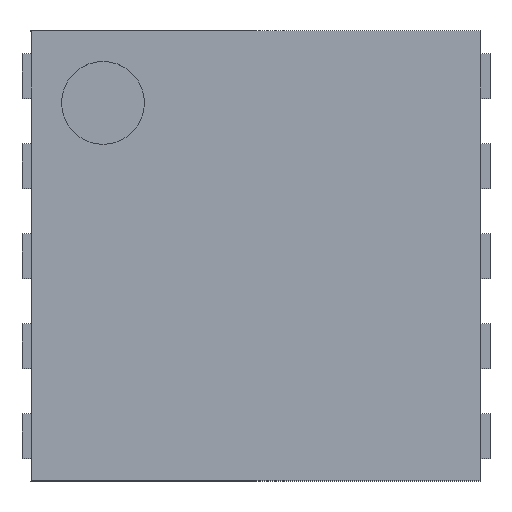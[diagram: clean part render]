
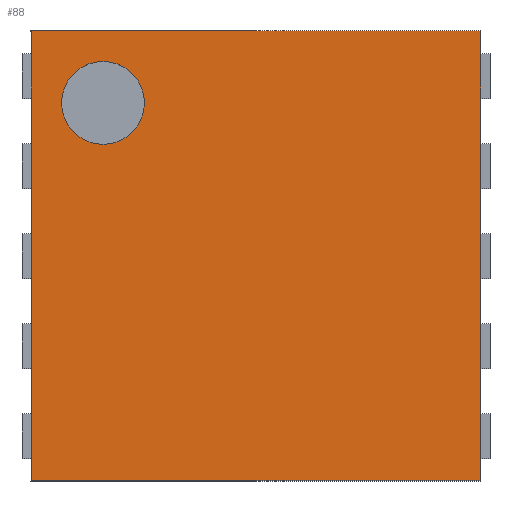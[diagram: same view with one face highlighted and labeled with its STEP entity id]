
A CAD part, top view. The second image highlights one B-rep face of the part: STEP entity #88.
In plain terms, the highlighted planar face has unit normal (0, 0, 1).
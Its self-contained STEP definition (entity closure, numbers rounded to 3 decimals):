
#24 = VERTEX_POINT('',#25);
#25 = CARTESIAN_POINT('',(-1.25,-1.25,0.85));
#40 = VERTEX_POINT('',#41);
#41 = CARTESIAN_POINT('',(-1.25,1.25,0.85));
#47 = EDGE_CURVE('',#24,#40,#48,.T.);
#48 = LINE('',#49,#50);
#49 = CARTESIAN_POINT('',(-1.25,-1.25,0.85));
#50 = VECTOR('',#51,1.);
#51 = DIRECTION('',(0.,1.,0.));
#70 = EDGE_CURVE('',#24,#71,#73,.T.);
#71 = VERTEX_POINT('',#72);
#72 = CARTESIAN_POINT('',(1.25,-1.25,0.85));
#73 = LINE('',#74,#75);
#74 = CARTESIAN_POINT('',(-1.25,-1.25,0.85));
#75 = VECTOR('',#76,1.);
#76 = DIRECTION('',(1.,0.,0.));
#88 = ADVANCED_FACE('',(#89,#107),#118,.T.);
#89 = FACE_BOUND('',#90,.T.);
#90 = EDGE_LOOP('',(#91,#92,#93,#101));
#91 = ORIENTED_EDGE('',*,*,#47,.F.);
#92 = ORIENTED_EDGE('',*,*,#70,.T.);
#93 = ORIENTED_EDGE('',*,*,#94,.T.);
#94 = EDGE_CURVE('',#71,#95,#97,.T.);
#95 = VERTEX_POINT('',#96);
#96 = CARTESIAN_POINT('',(1.25,1.25,0.85));
#97 = LINE('',#98,#99);
#98 = CARTESIAN_POINT('',(1.25,-1.25,0.85));
#99 = VECTOR('',#100,1.);
#100 = DIRECTION('',(0.,1.,0.));
#101 = ORIENTED_EDGE('',*,*,#102,.F.);
#102 = EDGE_CURVE('',#40,#95,#103,.T.);
#103 = LINE('',#104,#105);
#104 = CARTESIAN_POINT('',(-1.25,1.25,0.85));
#105 = VECTOR('',#106,1.);
#106 = DIRECTION('',(1.,0.,0.));
#107 = FACE_BOUND('',#108,.T.);
#108 = EDGE_LOOP('',(#109));
#109 = ORIENTED_EDGE('',*,*,#110,.F.);
#110 = EDGE_CURVE('',#111,#111,#113,.T.);
#111 = VERTEX_POINT('',#112);
#112 = CARTESIAN_POINT('',(-0.62,0.85,0.85));
#113 = CIRCLE('',#114,0.23);
#114 = AXIS2_PLACEMENT_3D('',#115,#116,#117);
#115 = CARTESIAN_POINT('',(-0.85,0.85,0.85));
#116 = DIRECTION('',(0.,0.,1.));
#117 = DIRECTION('',(1.,0.,0.));
#118 = PLANE('',#119);
#119 = AXIS2_PLACEMENT_3D('',#120,#121,#122);
#120 = CARTESIAN_POINT('',(-1.25,-1.25,0.85));
#121 = DIRECTION('',(0.,0.,1.));
#122 = DIRECTION('',(1.,0.,0.));
